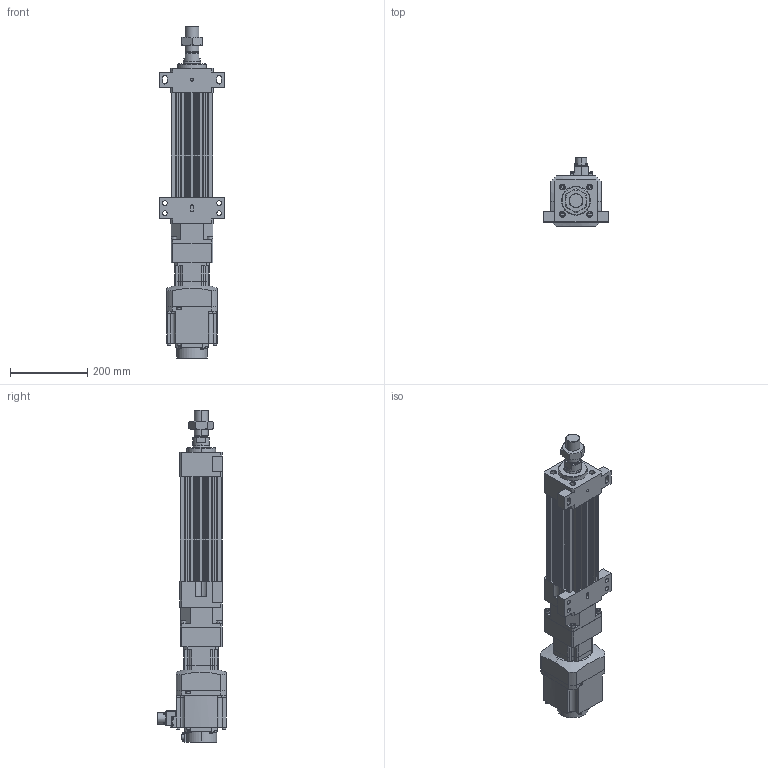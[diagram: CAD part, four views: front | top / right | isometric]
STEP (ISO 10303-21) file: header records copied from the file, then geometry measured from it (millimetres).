
FILE_DESCRIPTION (( 'STEP AP203' ), '1' );
FILE_NAME ('HES110NS(HS)-S100-W010G00-M-FFB.STEP', '2023-01-27T05:24:55', ( 'tms' ), ( '' ), 'SwSTEP 2.0', 'SolidWorks 2013', '' );
FILE_SCHEMA (( 'CONFIG_CONTROL_DESIGN' ));
Length unit declared in the file: millimetre
Products named in the file (8): AB0901; M36X1.5P; HES110NS(HS)-S100-W010G00-M-FFB; HG-SR102; HES110 ROD M ST100; HES110-S100-G090-FFB; P0401301004; AB090-003[HG-SR102B]
Assembly tree (7 placements, depth 3):
  HES110NS(HS)-S100-W010G00-M-FFB
    HES110-S100-G090-FFB
    HES110 ROD M ST100
    M36X1.5P
    AB090-003[HG-SR102B]
      AB0901
      P0401301004
    HG-SR102
Bounding box: 170 x 177.49 x 858.5 mm (x, y, z)
Volume: 5703973.5 mm3; surface area: 723797 mm2
Topology: 4 solids, 15 shells, 1189 faces, 3015 edges, 1964 vertices
Faces by surface type: plane 570, cylinder 529, cone 78, bspline 8, torus 4
Entity records: 37852 total; most frequent: CARTESIAN_POINT 7358, DIRECTION 6498, ORIENTED_EDGE 5982, EDGE_CURVE 3001, AXIS2_PLACEMENT_3D 2375, VERTEX_POINT 1964, LINE 1748, VECTOR 1748
